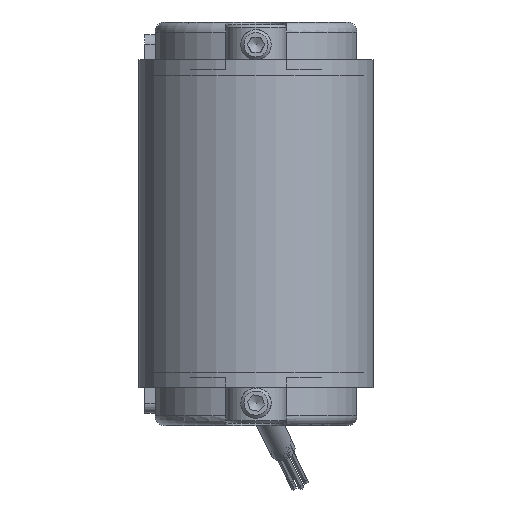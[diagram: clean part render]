
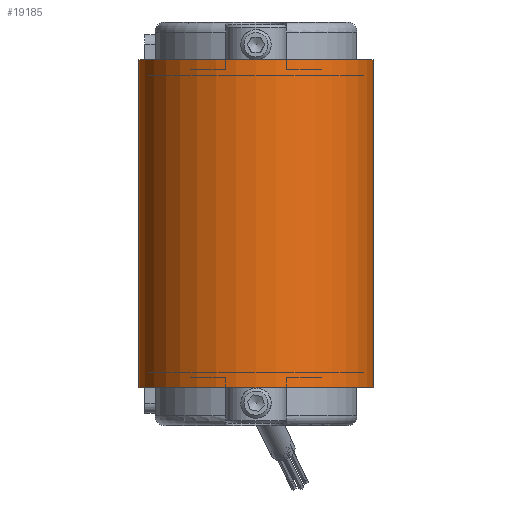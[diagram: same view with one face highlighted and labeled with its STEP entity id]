
A CAD part, front view. The second image highlights one B-rep face of the part: STEP entity #19185.
In plain terms, the highlighted cylindrical face has radius 23.3 mm (diameter 46.6 mm), a partial arc.
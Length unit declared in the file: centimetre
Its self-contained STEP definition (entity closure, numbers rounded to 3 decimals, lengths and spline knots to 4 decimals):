
#1502=FACE_OUTER_BOUND('',#2541,.T.);
#2541=EDGE_LOOP('',(#13293,#13294,#13295,#13296));
#3736=CIRCLE('',#20545,2.33);
#3739=CIRCLE('',#20551,2.33);
#4711=LINE('',#28314,#6263);
#4712=LINE('',#28318,#6264);
#6263=VECTOR('',#23231,1.);
#6264=VECTOR('',#23236,1.);
#7876=VERTEX_POINT('',#28297);
#7877=VERTEX_POINT('',#28298);
#7882=VERTEX_POINT('',#28312);
#7883=VERTEX_POINT('',#28316);
#9976=EDGE_CURVE('',#7876,#7877,#3736,.T.);
#9984=EDGE_CURVE('',#7882,#7877,#4711,.T.);
#9985=EDGE_CURVE('',#7882,#7883,#3739,.T.);
#9986=EDGE_CURVE('',#7876,#7883,#4712,.T.);
#13293=ORIENTED_EDGE('',*,*,#9985,.T.);
#13294=ORIENTED_EDGE('',*,*,#9986,.F.);
#13295=ORIENTED_EDGE('',*,*,#9976,.T.);
#13296=ORIENTED_EDGE('',*,*,#9984,.F.);
#17784=CYLINDRICAL_SURFACE('',#20550,2.33);
#19185=ADVANCED_FACE('',(#1502),#17784,.T.);
#20545=AXIS2_PLACEMENT_3D('',#28299,#23216,#23217);
#20550=AXIS2_PLACEMENT_3D('',#28315,#23232,#23233);
#20551=AXIS2_PLACEMENT_3D('',#28317,#23234,#23235);
#23216=DIRECTION('center_axis',(0.,0.,
-1.));
#23217=DIRECTION('ref_axis',(-1.,0.,0.));
#23231=DIRECTION('',(0.,0.,1.));
#23232=DIRECTION('center_axis',(0.,0.,
-1.));
#23233=DIRECTION('ref_axis',(-1.,0.,0.));
#23234=DIRECTION('center_axis',(0.,0.,
1.));
#23235=DIRECTION('ref_axis',(-1.,0.,0.));
#23236=DIRECTION('',(0.,0.,-1.));
#28297=CARTESIAN_POINT('',(2.33,-87.,3.25));
#28298=CARTESIAN_POINT('',(-2.33,-87.,3.25));
#28299=CARTESIAN_POINT('Origin',(0.,-87.,
3.25));
#28312=CARTESIAN_POINT('',(-2.33,-87.,-3.25));
#28314=CARTESIAN_POINT('',(-2.33,-87.,0.));
#28315=CARTESIAN_POINT('Origin',(0.,-87.,
0.));
#28316=CARTESIAN_POINT('',(2.33,-87.,-3.25));
#28317=CARTESIAN_POINT('Origin',(0.,-87.,
-3.25));
#28318=CARTESIAN_POINT('',(2.33,-87.,0.));
